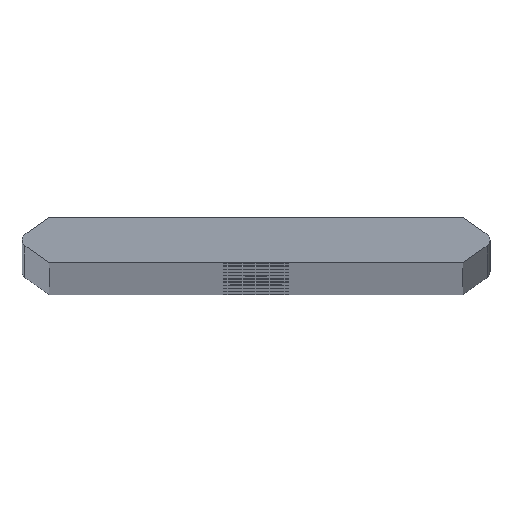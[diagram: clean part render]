
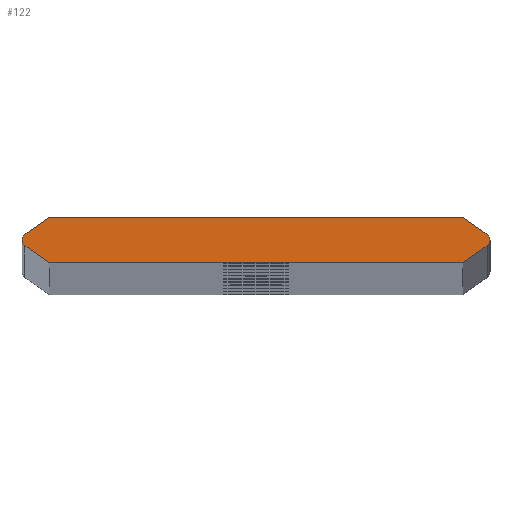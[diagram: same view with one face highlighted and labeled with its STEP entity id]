
A CAD part, top view. The second image highlights one B-rep face of the part: STEP entity #122.
In plain terms, the highlighted planar face has unit normal (0, 0, 1).
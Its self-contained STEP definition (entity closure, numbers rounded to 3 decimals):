
#122=ADVANCED_FACE('',(#226),#227,.T.);
#226=FACE_OUTER_BOUND('',#382,.T.);
#227=PLANE('',#383);
#382=EDGE_LOOP('',(#773,#774,#775,#776,#777,#778,#779,#780,#781,#782));
#383=AXIS2_PLACEMENT_3D('',#783,#784,#785);
#773=ORIENTED_EDGE('',*,*,#941,.T.);
#774=ORIENTED_EDGE('',*,*,#1078,.T.);
#775=ORIENTED_EDGE('',*,*,#1079,.F.);
#776=ORIENTED_EDGE('',*,*,#1080,.F.);
#777=ORIENTED_EDGE('',*,*,#1081,.F.);
#778=ORIENTED_EDGE('',*,*,#937,.T.);
#779=ORIENTED_EDGE('',*,*,#1082,.T.);
#780=ORIENTED_EDGE('',*,*,#1083,.F.);
#781=ORIENTED_EDGE('',*,*,#1084,.F.);
#782=ORIENTED_EDGE('',*,*,#1085,.F.);
#783=CARTESIAN_POINT('',(0.,0.,1976.0));
#784=DIRECTION('',(0.0,0.0,1.0));
#785=DIRECTION('',(1.0,0.0,0.0));
#937=EDGE_CURVE('',#1101,#1098,#1102,.T.);
#941=EDGE_CURVE('',#1109,#1106,#1110,.T.);
#1078=EDGE_CURVE('',#1106,#1336,#1338,.T.);
#1079=EDGE_CURVE('',#1339,#1336,#1340,.T.);
#1080=EDGE_CURVE('',#1341,#1339,#1342,.T.);
#1081=EDGE_CURVE('',#1101,#1341,#1343,.T.);
#1082=EDGE_CURVE('',#1098,#1344,#1345,.T.);
#1083=EDGE_CURVE('',#1346,#1344,#1347,.T.);
#1084=EDGE_CURVE('',#1348,#1346,#1349,.T.);
#1085=EDGE_CURVE('',#1109,#1348,#1350,.T.);
#1098=VERTEX_POINT('',#1368);
#1101=VERTEX_POINT('',#1372);
#1102=CIRCLE('',#1373,0.76);
#1106=VERTEX_POINT('',#1378);
#1109=VERTEX_POINT('',#1382);
#1110=CIRCLE('',#1383,0.76);
#1336=VERTEX_POINT('',#1654);
#1338=CIRCLE('',#1657,0.76);
#1339=VERTEX_POINT('',#1658);
#1340=LINE('',#1659,#1660);
#1341=VERTEX_POINT('',#1661);
#1342=LINE('',#1662,#1663);
#1343=LINE('',#1664,#1665);
#1344=VERTEX_POINT('',#1666);
#1345=CIRCLE('',#1667,0.76);
#1346=VERTEX_POINT('',#1668);
#1347=LINE('',#1669,#1670);
#1348=VERTEX_POINT('',#1671);
#1349=LINE('',#1672,#1673);
#1350=LINE('',#1674,#1675);
#1368=CARTESIAN_POINT('',(25.225,0.,1976.0));
#1372=CARTESIAN_POINT('',(24.904,-0.62,1976.0));
#1373=AXIS2_PLACEMENT_3D('',#1705,#1706,#1707);
#1378=CARTESIAN_POINT('',(-25.225,0.,1976.0));
#1382=CARTESIAN_POINT('',(-24.904,0.62,1976.0));
#1383=AXIS2_PLACEMENT_3D('',#1713,#1714,#1715);
#1654=CARTESIAN_POINT('',(-24.904,-0.62,1976.0));
#1657=AXIS2_PLACEMENT_3D('',#2032,#2033,#2034);
#1658=CARTESIAN_POINT('',(-22.27,-2.465,1976.0));
#1659=CARTESIAN_POINT('',(-25.79,0.,1976.0));
#1660=VECTOR('',#2035,1.0);
#1661=CARTESIAN_POINT('',(22.27,-2.465,1976.0));
#1662=CARTESIAN_POINT('',(22.27,-2.465,1976.0));
#1663=VECTOR('',#2036,1.0);
#1664=CARTESIAN_POINT('',(25.79,0.0,1976.0));
#1665=VECTOR('',#2037,1.0);
#1666=CARTESIAN_POINT('',(24.904,0.62,1976.0));
#1667=AXIS2_PLACEMENT_3D('',#2038,#2039,#2040);
#1668=CARTESIAN_POINT('',(22.27,2.465,1976.0));
#1669=CARTESIAN_POINT('',(25.79,0.0,1976.0));
#1670=VECTOR('',#2041,1.0);
#1671=CARTESIAN_POINT('',(-22.27,2.465,1976.0));
#1672=CARTESIAN_POINT('',(-22.27,2.465,1976.0));
#1673=VECTOR('',#2042,1.0);
#1674=CARTESIAN_POINT('',(-25.79,0.,1976.0));
#1675=VECTOR('',#2043,1.0);
#1705=CARTESIAN_POINT('',(24.465,0.0,1976.0));
#1706=DIRECTION('',(0.0,0.0,1.0));
#1707=DIRECTION('',(1.0,0.0,0.0));
#1713=CARTESIAN_POINT('',(-24.465,0.,1976.0));
#1714=DIRECTION('',(0.0,0.0,1.0));
#1715=DIRECTION('',(-1.0,0.,0.0));
#2032=CARTESIAN_POINT('',(-24.465,0.,1976.0));
#2033=DIRECTION('',(0.0,0.0,1.0));
#2034=DIRECTION('',(-1.0,0.,0.0));
#2035=DIRECTION('',(-0.819,0.574,0.0));
#2036=DIRECTION('',(-1.0,0.0,0.0));
#2037=DIRECTION('',(-0.819,-0.574,0.0));
#2038=CARTESIAN_POINT('',(24.465,0.0,1976.0));
#2039=DIRECTION('',(0.0,0.0,1.0));
#2040=DIRECTION('',(1.0,0.0,0.0));
#2041=DIRECTION('',(0.819,-0.574,0.0));
#2042=DIRECTION('',(1.0,0.,0.0));
#2043=DIRECTION('',(0.819,0.574,0.0));
